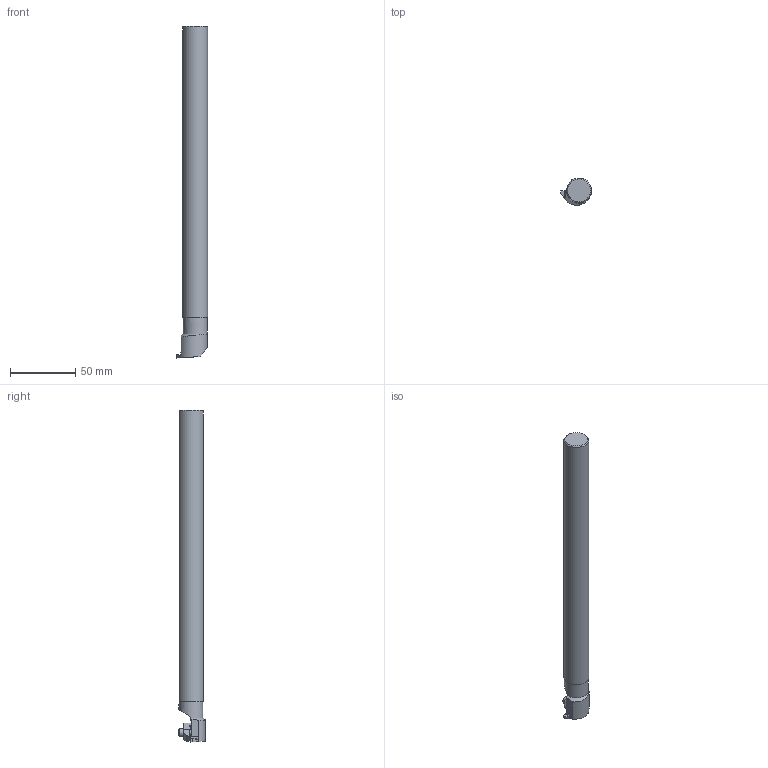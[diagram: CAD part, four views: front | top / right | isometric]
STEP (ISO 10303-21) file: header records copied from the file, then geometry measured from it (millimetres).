
FILE_DESCRIPTION(/* description */ (''),/* implementation_level */ '2;1');
FILE_NAME(/* name */ 'A12NER2_GTM.stp',/* time_stamp */ '2018-08-12T09:33:36-04:00',/* author */ ('Virtual Machining Team'),/* organization */ ('Kennametal, Inc.'),/* preprocessor_version */ 'ST-DEVELOPER v15',/* originating_system */ 'SIEMENS PLM Software NX 9.0',/* authorisation */ '');
FILE_SCHEMA (('AUTOMOTIVE_DESIGN { 1 0 10303 214 3 1 1 1 }'));
Length unit declared in the file: millimetre
Products named in the file (1): A12NER2_GTM
Bounding box: 23.79 x 20.13 x 254 mm (x, y, z)
Volume: 69397.9 mm3; surface area: 16415.5 mm2
Topology: 4 solids, 4 shells, 86 faces, 227 edges, 152 vertices
Faces by surface type: plane 58, cylinder 19, cone 5, bspline 4
Full cylindrical faces by diameter (mm): 3.505 x1, 5.74 x1, 18.377 x1
Entity records: 2787 total; most frequent: CARTESIAN_POINT 596, ORIENTED_EDGE 438, DIRECTION 426, EDGE_CURVE 219, VERTEX_POINT 148, LINE 148, VECTOR 148, AXIS2_PLACEMENT_3D 139
